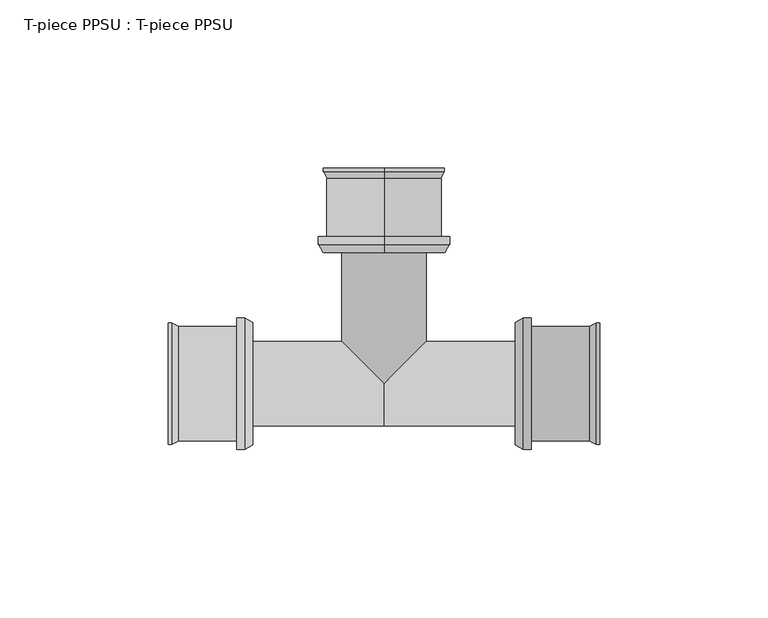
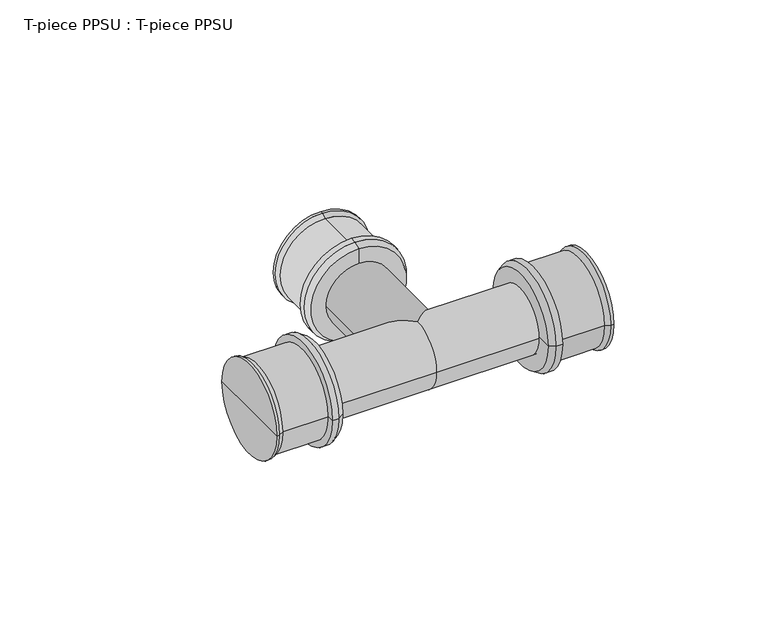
"""IFC4 building model written with IfcOpenShell, lengths in millimetres: pipe fitting geometry, T-piece PPSU : T-piece PPSU."""

from ifc_helpers import new_model, si_unit, frame, origin, place, context, project, spatial, polyline, circle_curve, ellipse_curve, source, transform, mapped, element, save
from ifc_brep_helpers import plane_surface, cylinder_surface, revolved_surface, advanced_brep


def t_piece_ppsu_t_piece_ppsu_0abc5c69(model_context):
    return source(origin(), model_context, "Body", "AdvancedBrep", [
        advanced_brep(
        [(39.0, 0.0, 0.0), (39.0, 18.1432269, 0.0), (39.0, -18.1432269, 0.0), (43.7, -19.5, 0.0), (43.7, 19.5, 0.0), (43.7, 0.0, 0.0), (41.35, -19.5, 0.0), (41.35, 19.5, 0.0)],
        [
            (0, 1),
            (1, 2, circle_curve(frame((39.0, 0.0, 0.0), z_axis=(-1.0, 0.0, 0.0), x_axis=(0.0, 1.0, 0.0)), 18.1432269)),
            (2, 0),
            (2, 1, circle_curve(frame((39.0, 0.0, 0.0), z_axis=(-1.0, 0.0, 0.0), x_axis=(0.0, 1.0, 0.0)), 18.1432269)),
            (3, 4, circle_curve(frame((43.7, 0.0, 0.0), z_axis=(1.0, 0.0, 0.0), x_axis=(0.0, 1.0, 0.0)), 19.5)),
            (4, 5),
            (5, 3),
            (4, 3, circle_curve(frame((43.7, 0.0, 0.0), z_axis=(1.0, 0.0, 0.0), x_axis=(0.0, 1.0, 0.0)), 19.5)),
            (6, 7, circle_curve(frame((41.35, 0.0, 0.0), z_axis=(1.0, 0.0, 0.0), x_axis=(0.0, 1.0, 0.0)), 19.5)),
            (7, 4),
            (3, 6),
            (7, 6, circle_curve(frame((41.35, 0.0, 0.0), z_axis=(1.0, 0.0, 0.0), x_axis=(0.0, 1.0, 0.0)), 19.5)),
            (1, 7),
            (6, 2),
        ],
        [
            plane_surface(frame((39.0, 0.0, 0.0), z_axis=(-1.0, 0.0, 0.0), x_axis=(0.0, 1.0, 0.0))),
            plane_surface(frame((43.7, 0.0, 0.0), z_axis=(1.0, 0.0, 0.0), x_axis=(0.0, 1.0, 0.0))),
            cylinder_surface(frame((40.0, 0.0, 0.0), z_axis=(-1.0, 0.0, 0.0), x_axis=(0.0, 1.0, 0.0)), 19.5),
            revolved_surface(polyline([(41.35, 19.5, 0.0), (39.0, 18.1432269, 0.0)]), (40.0, 0.0, 0.0), (-1.0, 0.0, 0.0)),
        ],
        [
            (0, [[1, 2, 3]]),
            (0, [[-3, 4, -1]]),
            (1, [[5, 6, 7]]),
            (1, [[8, -7, -6]]),
            (2, [[9, 10, -5, 11]]),
            (2, [[12, -11, -8, -10]]),
            (3, [[-2, 13, -9, 14]]),
            (3, [[-4, -14, -12, -13]]),
        ],
    ),
        advanced_brep(
        [(43.7, -17.0, 0.0), (43.7, 17.0, 0.0), (61.0, 17.0, 0.0), (61.0, -17.0, 0.0), (64.0, -18.0, 0.0), (64.0, 18.0, 0.0), (64.0, 0.0, 0.0), (43.7, 0.0, 0.0), (63.0, -18.0, 0.0), (63.0, 18.0, 0.0)],
        [
            (0, 1, circle_curve(frame((43.7, 0.0, 0.0), z_axis=(1.0, 0.0, 0.0), x_axis=(0.0, 1.0, 0.0)), 17.0)),
            (1, 2),
            (2, 3, circle_curve(frame((61.0, 0.0, 0.0), z_axis=(-1.0, 0.0, 0.0), x_axis=(0.0, 1.0, 0.0)), 17.0)),
            (3, 0),
            (1, 0, circle_curve(frame((43.7, 0.0, 0.0), z_axis=(1.0, 0.0, 0.0), x_axis=(0.0, 1.0, 0.0)), 17.0)),
            (3, 2, circle_curve(frame((61.0, 0.0, 0.0), z_axis=(-1.0, 0.0, 0.0), x_axis=(0.0, 1.0, 0.0)), 17.0)),
            (4, 5, circle_curve(frame((64.0, 0.0, 0.0), z_axis=(1.0, 0.0, 0.0), x_axis=(0.0, 1.0, 0.0)), 18.0)),
            (5, 6),
            (6, 4),
            (5, 4, circle_curve(frame((64.0, 0.0, 0.0), z_axis=(1.0, 0.0, 0.0), x_axis=(0.0, 1.0, 0.0)), 18.0)),
            (7, 1),
            (0, 7),
            (8, 9, circle_curve(frame((63.0, 0.0, 0.0), z_axis=(1.0, 0.0, 0.0), x_axis=(0.0, 1.0, 0.0)), 18.0)),
            (9, 5),
            (4, 8),
            (9, 8, circle_curve(frame((63.0, 0.0, 0.0), z_axis=(1.0, 0.0, 0.0), x_axis=(0.0, 1.0, 0.0)), 18.0)),
            (2, 9),
            (8, 3),
        ],
        [
            cylinder_surface(frame((-1871.8038476, 0.0, 0.0), z_axis=(-1.0, 0.0, 0.0), x_axis=(0.0, 1.0, 0.0)), 17.0),
            plane_surface(frame((64.0, 0.0, 0.0), z_axis=(1.0, 0.0, 0.0), x_axis=(0.0, 1.0, 0.0))),
            plane_surface(frame((43.7, 0.0, 0.0), z_axis=(-1.0, 0.0, 0.0), x_axis=(0.0, 1.0, 0.0))),
            cylinder_surface(frame((-1871.8038476, 0.0, 0.0), z_axis=(-1.0, 0.0, 0.0), x_axis=(0.0, 1.0, 0.0)), 18.0),
            revolved_surface(polyline([(63.0, 18.0, 0.0), (61.0, 17.0, 0.0)]), (-1871.8038476, 0.0, 0.0), (-1.0, 0.0, 0.0)),
        ],
        [
            (0, [[1, 2, 3, 4]]),
            (0, [[5, -4, 6, -2]]),
            (1, [[7, 8, 9]]),
            (1, [[10, -9, -8]]),
            (2, [[11, -1, 12]]),
            (2, [[-12, -5, -11]]),
            (3, [[13, 14, -7, 15]]),
            (3, [[16, -15, -10, -14]]),
            (4, [[-3, 17, -13, 18]]),
            (4, [[-6, -18, -16, -17]]),
        ],
    ),
        advanced_brep(
        [(-39.0, 0.0, 0.0), (-39.0, -18.1432269, 0.0), (-39.0, 18.1432269, 0.0), (-43.7, 19.5, 0.0), (-43.7, -19.5, 0.0), (-43.7, 0.0, 0.0), (-41.35, 19.5, 0.0), (-41.35, -19.5, 0.0)],
        [
            (0, 1),
            (1, 2, circle_curve(frame((-39.0, 0.0, 0.0), z_axis=(1.0, 0.0, 0.0), x_axis=(0.0, -1.0, 0.0)), 18.1432269)),
            (2, 0),
            (2, 1, circle_curve(frame((-39.0, 0.0, 0.0), z_axis=(1.0, 0.0, 0.0), x_axis=(0.0, -1.0, 0.0)), 18.1432269)),
            (3, 4, circle_curve(frame((-43.7, 0.0, 0.0), z_axis=(-1.0, 0.0, 0.0), x_axis=(0.0, -1.0, 0.0)), 19.5)),
            (4, 5),
            (5, 3),
            (4, 3, circle_curve(frame((-43.7, 0.0, 0.0), z_axis=(-1.0, 0.0, 0.0), x_axis=(0.0, -1.0, 0.0)), 19.5)),
            (6, 7, circle_curve(frame((-41.35, 0.0, 0.0), z_axis=(-1.0, 0.0, 0.0), x_axis=(0.0, -1.0, 0.0)), 19.5)),
            (7, 4),
            (3, 6),
            (7, 6, circle_curve(frame((-41.35, 0.0, 0.0), z_axis=(-1.0, 0.0, 0.0), x_axis=(0.0, -1.0, 0.0)), 19.5)),
            (1, 7),
            (6, 2),
        ],
        [
            plane_surface(frame((-39.0, 0.0, 0.0), z_axis=(1.0, 0.0, 0.0), x_axis=(0.0, -1.0, 0.0))),
            plane_surface(frame((-43.7, 0.0, 0.0), z_axis=(-1.0, 0.0, 0.0), x_axis=(0.0, -1.0, 0.0))),
            cylinder_surface(frame((-40.0, 0.0, 0.0), z_axis=(1.0, 0.0, 0.0), x_axis=(0.0, -1.0, 0.0)), 19.5),
            revolved_surface(polyline([(-41.35, -19.5, 0.0), (-39.0, -18.1432269, 0.0)]), (-40.0, 0.0, 0.0), (1.0, 0.0, 0.0)),
        ],
        [
            (0, [[1, 2, 3]]),
            (0, [[-3, 4, -1]]),
            (1, [[5, 6, 7]]),
            (1, [[8, -7, -6]]),
            (2, [[9, 10, -5, 11]]),
            (2, [[12, -11, -8, -10]]),
            (3, [[-2, 13, -9, 14]]),
            (3, [[-4, -14, -12, -13]]),
        ],
    ),
        advanced_brep(
        [(-43.7, 17.0, 0.0), (-43.7, -17.0, 0.0), (-61.0, -17.0, 0.0), (-61.0, 17.0, 0.0), (-64.0, 18.0, 0.0), (-64.0, -18.0, 0.0), (-64.0, 0.0, 0.0), (-43.7, 0.0, 0.0), (-63.0, 18.0, 0.0), (-63.0, -18.0, 0.0)],
        [
            (0, 1, circle_curve(frame((-43.7, 0.0, 0.0), z_axis=(-1.0, 0.0, 0.0), x_axis=(0.0, -1.0, 0.0)), 17.0)),
            (1, 2),
            (2, 3, circle_curve(frame((-61.0, 0.0, 0.0), z_axis=(1.0, 0.0, 0.0), x_axis=(0.0, -1.0, 0.0)), 17.0)),
            (3, 0),
            (1, 0, circle_curve(frame((-43.7, 0.0, 0.0), z_axis=(-1.0, 0.0, 0.0), x_axis=(0.0, -1.0, 0.0)), 17.0)),
            (3, 2, circle_curve(frame((-61.0, 0.0, 0.0), z_axis=(1.0, 0.0, 0.0), x_axis=(0.0, -1.0, 0.0)), 17.0)),
            (4, 5, circle_curve(frame((-64.0, 0.0, 0.0), z_axis=(-1.0, 0.0, 0.0), x_axis=(0.0, -1.0, 0.0)), 18.0)),
            (5, 6),
            (6, 4),
            (5, 4, circle_curve(frame((-64.0, 0.0, 0.0), z_axis=(-1.0, 0.0, 0.0), x_axis=(0.0, -1.0, 0.0)), 18.0)),
            (7, 1),
            (0, 7),
            (8, 9, circle_curve(frame((-63.0, 0.0, 0.0), z_axis=(-1.0, 0.0, 0.0), x_axis=(0.0, -1.0, 0.0)), 18.0)),
            (9, 5),
            (4, 8),
            (9, 8, circle_curve(frame((-63.0, 0.0, 0.0), z_axis=(-1.0, 0.0, 0.0), x_axis=(0.0, -1.0, 0.0)), 18.0)),
            (2, 9),
            (8, 3),
        ],
        [
            cylinder_surface(frame((1871.8038476, 0.0, 0.0), z_axis=(1.0, 0.0, 0.0), x_axis=(0.0, -1.0, 0.0)), 17.0),
            plane_surface(frame((-64.0, 0.0, 0.0), z_axis=(-1.0, 0.0, 0.0), x_axis=(0.0, -1.0, 0.0))),
            plane_surface(frame((-43.7, 0.0, 0.0), z_axis=(1.0, 0.0, 0.0), x_axis=(0.0, -1.0, 0.0))),
            cylinder_surface(frame((1871.8038476, 0.0, 0.0), z_axis=(1.0, 0.0, 0.0), x_axis=(0.0, -1.0, 0.0)), 18.0),
            revolved_surface(polyline([(-63.0, -18.0, 0.0), (-61.0, -17.0, 0.0)]), (1871.8038476, 0.0, 0.0), (1.0, 0.0, 0.0)),
        ],
        [
            (0, [[1, 2, 3, 4]]),
            (0, [[5, -4, 6, -2]]),
            (1, [[7, 8, 9]]),
            (1, [[10, -9, -8]]),
            (2, [[11, -1, 12]]),
            (2, [[-12, -5, -11]]),
            (3, [[13, 14, -7, 15]]),
            (3, [[16, -15, -10, -14]]),
            (4, [[-3, 17, -13, 18]]),
            (4, [[-6, -18, -16, -17]]),
        ],
    ),
        advanced_brep(
        [(0.0, 39.0, 0.0), (0.0, 39.0, 18.1432269), (0.0, 39.0, -18.1432269), (0.0, 43.7, -19.5), (0.0, 43.7, 19.5), (0.0, 43.7, 0.0), (0.0, 41.35, -19.5), (0.0, 41.35, 19.5)],
        [
            (0, 1),
            (1, 2, circle_curve(frame((0.0, 39.0, 0.0), z_axis=(0.0, -1.0, 0.0), x_axis=(0.0, 0.0, 1.0)), 18.1432269)),
            (2, 0),
            (2, 1, circle_curve(frame((0.0, 39.0, 0.0), z_axis=(0.0, -1.0, 0.0), x_axis=(0.0, 0.0, 1.0)), 18.1432269)),
            (3, 4, circle_curve(frame((0.0, 43.7, 0.0), z_axis=(0.0, 1.0, 0.0), x_axis=(0.0, 0.0, 1.0)), 19.5)),
            (4, 5),
            (5, 3),
            (4, 3, circle_curve(frame((0.0, 43.7, 0.0), z_axis=(0.0, 1.0, 0.0), x_axis=(0.0, 0.0, 1.0)), 19.5)),
            (6, 7, circle_curve(frame((0.0, 41.35, 0.0), z_axis=(0.0, 1.0, 0.0), x_axis=(0.0, 0.0, 1.0)), 19.5)),
            (7, 4),
            (3, 6),
            (7, 6, circle_curve(frame((0.0, 41.35, 0.0), z_axis=(0.0, 1.0, 0.0), x_axis=(0.0, 0.0, 1.0)), 19.5)),
            (1, 7),
            (6, 2),
        ],
        [
            plane_surface(frame((0.0, 39.0, 0.0), z_axis=(0.0, -1.0, 0.0), x_axis=(0.0, 0.0, 1.0))),
            plane_surface(frame((0.0, 43.7, 0.0), z_axis=(0.0, 1.0, 0.0), x_axis=(0.0, 0.0, 1.0))),
            cylinder_surface(frame((0.0, 40.0, 0.0), z_axis=(0.0, -1.0, 0.0), x_axis=(0.0, 0.0, 1.0)), 19.5),
            revolved_surface(polyline([(0.0, 41.35, 19.5), (0.0, 39.0, 18.1432269)]), (0.0, 40.0, 0.0), (0.0, -1.0, 0.0)),
        ],
        [
            (0, [[1, 2, 3]]),
            (0, [[-3, 4, -1]]),
            (1, [[5, 6, 7]]),
            (1, [[8, -7, -6]]),
            (2, [[9, 10, -5, 11]]),
            (2, [[12, -11, -8, -10]]),
            (3, [[-2, 13, -9, 14]]),
            (3, [[-4, -14, -12, -13]]),
        ],
    ),
        advanced_brep(
        [(0.0, 43.7, -17.0), (0.0, 43.7, 17.0), (0.0, 61.0, 17.0), (0.0, 61.0, -17.0), (0.0, 64.0, -18.0), (0.0, 64.0, 18.0), (0.0, 64.0, 0.0), (0.0, 43.7, 0.0), (0.0, 63.0, -18.0), (0.0, 63.0, 18.0)],
        [
            (0, 1, circle_curve(frame((0.0, 43.7, 0.0), z_axis=(0.0, 1.0, 0.0), x_axis=(0.0, 0.0, 1.0)), 17.0)),
            (1, 2),
            (2, 3, circle_curve(frame((0.0, 61.0, 0.0), z_axis=(0.0, -1.0, 0.0), x_axis=(0.0, 0.0, 1.0)), 17.0)),
            (3, 0),
            (1, 0, circle_curve(frame((0.0, 43.7, 0.0), z_axis=(0.0, 1.0, 0.0), x_axis=(0.0, 0.0, 1.0)), 17.0)),
            (3, 2, circle_curve(frame((0.0, 61.0, 0.0), z_axis=(0.0, -1.0, 0.0), x_axis=(0.0, 0.0, 1.0)), 17.0)),
            (4, 5, circle_curve(frame((0.0, 64.0, 0.0), z_axis=(0.0, 1.0, 0.0), x_axis=(0.0, 0.0, 1.0)), 18.0)),
            (5, 6),
            (6, 4),
            (5, 4, circle_curve(frame((0.0, 64.0, 0.0), z_axis=(0.0, 1.0, 0.0), x_axis=(0.0, 0.0, 1.0)), 18.0)),
            (7, 1),
            (0, 7),
            (8, 9, circle_curve(frame((0.0, 63.0, 0.0), z_axis=(0.0, 1.0, 0.0), x_axis=(0.0, 0.0, 1.0)), 18.0)),
            (9, 5),
            (4, 8),
            (9, 8, circle_curve(frame((0.0, 63.0, 0.0), z_axis=(0.0, 1.0, 0.0), x_axis=(0.0, 0.0, 1.0)), 18.0)),
            (2, 9),
            (8, 3),
        ],
        [
            cylinder_surface(frame((0.0, -1871.8038476, 0.0), z_axis=(0.0, -1.0, 0.0), x_axis=(0.0, 0.0, 1.0)), 17.0),
            plane_surface(frame((0.0, 64.0, 0.0), z_axis=(0.0, 1.0, 0.0), x_axis=(0.0, 0.0, 1.0))),
            plane_surface(frame((0.0, 43.7, 0.0), z_axis=(0.0, -1.0, 0.0), x_axis=(0.0, 0.0, 1.0))),
            cylinder_surface(frame((0.0, -1871.8038476, 0.0), z_axis=(0.0, -1.0, 0.0), x_axis=(0.0, 0.0, 1.0)), 18.0),
            revolved_surface(polyline([(0.0, 63.0, 18.0), (0.0, 61.0, 17.0)]), (0.0, -1871.8038476, 0.0), (0.0, -1.0, 0.0)),
        ],
        [
            (0, [[1, 2, 3, 4]]),
            (0, [[5, -4, 6, -2]]),
            (1, [[7, 8, 9]]),
            (1, [[10, -9, -8]]),
            (2, [[11, -1, 12]]),
            (2, [[-12, -5, -11]]),
            (3, [[13, 14, -7, 15]]),
            (3, [[16, -15, -10, -14]]),
            (4, [[-3, 17, -13, 18]]),
            (4, [[-6, -18, -16, -17]]),
        ],
    ),
        advanced_brep(
        [(40.0, 12.6, 0.0), (40.0, -12.6, 0.0), (12.6, 12.6, 0.0), (0.0, 0.0, 12.6), (0.0, -12.6, 0.0), (0.0, 0.0, -12.6), (-40.0, 12.6, 0.0), (-40.0, -12.6, 0.0), (-12.6, 12.6, 0.0), (-12.6, 40.0, 0.0), (12.6, 40.0, 0.0)],
        [
            (0, 1, circle_curve(frame((40.0, 0.0, 0.0), z_axis=(1.0, 0.0, 0.0), x_axis=(0.0, -1.0, 0.0)), 12.6)),
            (1, 0, circle_curve(frame((40.0, 0.0, 0.0), z_axis=(1.0, 0.0, 0.0), x_axis=(0.0, -1.0, 0.0)), 12.6)),
            (0, 2),
            (2, 3, ellipse_curve(frame((0.0, 0.0, 0.0), z_axis=(0.7071067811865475, -0.7071067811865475, 0.0), x_axis=(0.7071067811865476, 0.7071067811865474, 0.0)), 17.8190909, 12.6)),
            (3, 4, circle_curve(frame((0.0, 0.0, 0.0), z_axis=(1.0, 0.0, 0.0), x_axis=(0.0, -1.0, 0.0)), 12.6)),
            (4, 1),
            (4, 5, circle_curve(frame((0.0, 0.0, 0.0), z_axis=(1.0, 0.0, 0.0), x_axis=(0.0, -1.0, 0.0)), 12.6)),
            (5, 2, ellipse_curve(frame((0.0, 0.0, 0.0), z_axis=(0.7071067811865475, -0.7071067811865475, 0.0), x_axis=(0.7071067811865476, 0.7071067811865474, 0.0)), 17.8190909, 12.6)),
            (6, 7, circle_curve(frame((-40.0, 0.0, 0.0), z_axis=(-1.0, 0.0, 0.0), x_axis=(0.0, -1.0, 0.0)), 12.6)),
            (7, 6, circle_curve(frame((-40.0, 0.0, 0.0), z_axis=(-1.0, 0.0, 0.0), x_axis=(0.0, -1.0, 0.0)), 12.6)),
            (7, 4),
            (3, 8, ellipse_curve(frame((0.0, 0.0, 0.0), z_axis=(-0.7071067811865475, -0.7071067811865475, 0.0), x_axis=(0.7071067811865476, -0.7071067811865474, 0.0)), 17.8190909, 12.6)),
            (8, 6),
            (8, 5, ellipse_curve(frame((0.0, 0.0, 0.0), z_axis=(-0.7071067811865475, -0.7071067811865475, 0.0), x_axis=(0.7071067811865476, -0.7071067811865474, 0.0)), 17.8190909, 12.6)),
            (9, 10, circle_curve(frame((0.0, 40.0, 0.0), z_axis=(0.0, 1.0, 0.0), x_axis=(1.0, 0.0, 0.0)), 12.6)),
            (10, 9, circle_curve(frame((0.0, 40.0, 0.0), z_axis=(0.0, 1.0, 0.0), x_axis=(1.0, 0.0, 0.0)), 12.6)),
            (9, 8),
            (2, 10),
        ],
        [
            plane_surface(frame((40.0, 0.0, 0.0), z_axis=(1.0, 0.0, 0.0), x_axis=(0.0, 0.0, 1.0))),
            cylinder_surface(frame((40.0, 0.0, 0.0), z_axis=(1.0, 0.0, 0.0), x_axis=(0.0, -1.0, 0.0)), 12.6),
            plane_surface(frame((-40.0, 0.0, 0.0), z_axis=(-1.0, 0.0, 0.0), x_axis=(0.0, 0.0, 1.0))),
            cylinder_surface(frame((0.0, 0.0, 0.0), z_axis=(1.0, 0.0, 0.0), x_axis=(0.0, -1.0, 0.0)), 12.6),
            plane_surface(frame((0.0, 40.0, 0.0), z_axis=(0.0, 1.0, 0.0), x_axis=(0.0, 0.0, 1.0))),
            cylinder_surface(frame((0.0, 40.0, 0.0), z_axis=(0.0, 1.0, 0.0), x_axis=(1.0, 0.0, 0.0)), 12.6),
        ],
        [
            (0, [[1, 2]]),
            (1, [[-1, 3, 4, 5, 6]]),
            (1, [[-2, -6, 7, 8, -3]]),
            (2, [[9, 10]]),
            (3, [[-10, 11, -5, 12, 13]]),
            (3, [[-9, -13, 14, -7, -11]]),
            (4, [[15, 16]]),
            (5, [[-15, 17, -12, -4, 18]]),
            (5, [[-16, -18, -8, -14, -17]]),
        ],
    ),
    ])


if __name__ == "__main__":
    model = new_model("IFC4")
    model_context = context("Model", 3, world=origin())
    ifc_project = project(units=[si_unit("LENGTHUNIT", "METRE", prefix="MILLI")], contexts=[model_context])
    site = spatial("IfcSite", under=ifc_project)
    building = spatial("IfcBuilding", under=site)
    placement = place(None, origin())
    t_piece_ppsu_t_piece_ppsu_shape = t_piece_ppsu_t_piece_ppsu_0abc5c69(model_context)
    element("IfcPipeFitting", 1, ObjectType="T-piece PPSU : T-piece PPSU", at=placement, inside=building, context=model_context, shape_type="MappedRepresentation", body=[
        mapped(t_piece_ppsu_t_piece_ppsu_shape, transform((0.0, 0.0, 0.0), x_axis=(1.0, 0.0, 0.0), y_axis=(0.0, 1.0, 0.0), z_axis=(0.0, 0.0, 1.0))),
    ])
    save(model, "model.ifc")
